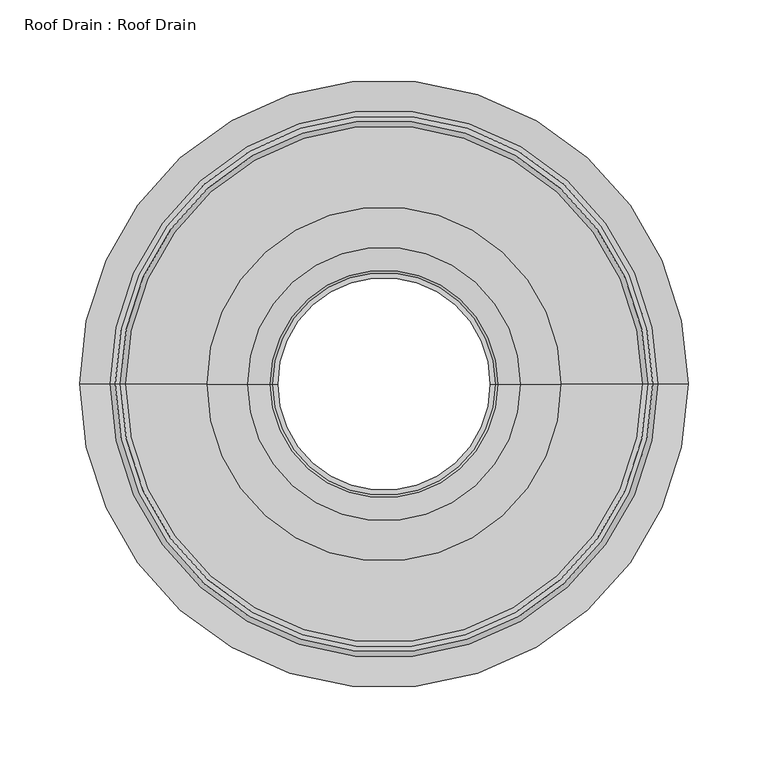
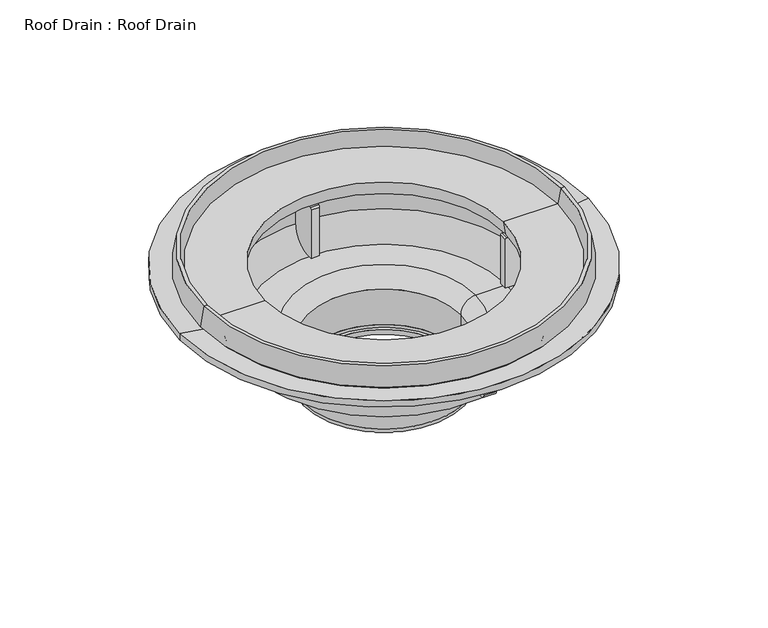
"""IFC4 building model written with IfcOpenShell, lengths in millimetres: proxy geometry, Roof Drain : Roof Drain."""

from ifc_helpers import new_model, si_unit, point, frame, origin, origin_with_axes, place, context, project, spatial, polyline, circle_curve, ellipse_curve, trimmed, source, transform, mapped, element, save
from ifc_brep_helpers import plane_surface, cylinder_surface, revolved_surface, advanced_brep


def roof_drain_roof_drain_b52993f2(model_context):
    return source(origin(), model_context, "Body", "AdvancedBrep", [
        advanced_brep(
        [(5.9835187, 171.3455573, -22.225), (5.9835187, 171.3455573, -8.8015902), (4.8754597, 139.6148985, -12.7), (4.8754597, 139.6148985, -25.4), (5.8727128, 168.1724914, -25.4), (-5.9835187, 171.3455573, -22.225), (-5.8727128, 168.1724914, -25.4), (-4.8754597, 139.6148985, -25.4), (-4.8754597, 139.6148985, -12.7), (-5.9835187, 171.3455573, -8.8015902)],
        [
            (0, 1),
            (1, 2),
            (2, 3),
            (3, 4),
            (4, 0, circle_curve(frame((5.8727128, 168.1724914, -22.225), z_axis=(0.9993908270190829, -0.034899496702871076, 0.0), x_axis=(0.034899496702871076, 0.9993908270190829, 0.0)), 3.175)),
            (5, 6, circle_curve(frame((-5.8727128, 168.1724914, -22.225), z_axis=(-0.9993908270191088, -0.0348994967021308, 0.0), x_axis=(-0.0348994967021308, 0.9993908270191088, 0.0)), 3.175)),
            (6, 7),
            (7, 8),
            (8, 9),
            (9, 5),
            (9, 1, circle_curve(frame((0.0, 0.0, -8.8015902), z_axis=(0.0, 0.0, -1.0), x_axis=(0.034899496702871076, 0.9993908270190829, 0.0)), 171.45)),
            (0, 5, circle_curve(frame((0.0, 0.0, -22.225), z_axis=(0.0, 0.0, 1.0), x_axis=(0.034899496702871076, 0.9993908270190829, 0.0)), 171.45)),
            (8, 2, circle_curve(frame((0.0, 0.0, -12.7), z_axis=(0.0, 0.0, -1.0), x_axis=(0.034899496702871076, 0.9993908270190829, 0.0)), 139.7)),
            (7, 3, circle_curve(frame((0.0, 0.0, -25.4), z_axis=(0.0, 0.0, -1.0), x_axis=(0.034899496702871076, 0.9993908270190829, 0.0)), 139.7)),
            (6, 4, circle_curve(frame((0.0, 0.0, -25.4), z_axis=(0.0, 0.0, -1.0), x_axis=(0.034899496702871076, 0.9993908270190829, 0.0)), 168.275)),
        ],
        [
            plane_surface(frame((0.0, 0.0, 168.275), z_axis=(0.9993908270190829, -0.034899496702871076, 0.0), x_axis=(0.034899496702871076, 0.9993908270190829, 0.0))),
            plane_surface(frame((0.0, 0.0, 168.275), z_axis=(-0.9993908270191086, -0.03489949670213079, 0.0), x_axis=(-0.03489949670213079, 0.9993908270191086, 0.0))),
            cylinder_surface(frame((0.0, 0.0, 168.275), z_axis=(0.0, 0.0, 1.0), x_axis=(0.034899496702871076, 0.9993908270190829, 0.0)), 171.45),
            revolved_surface(polyline([(5.9835187, 171.3455573, -8.8015902), (4.8754597, 139.6148985, -12.7)]), (0.0, 0.0, 168.275), (0.0, 0.0, 1.0)),
            revolved_surface(polyline([(4.875459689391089, 139.61489853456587, -12.699999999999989), (4.875459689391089, 139.61489853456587, -25.400000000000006)]), (0.0, 0.0, 168.275), (0.0, 0.0, 1.0)),
            plane_surface(frame((0.0, 0.0, -25.4), z_axis=(0.0, 0.0, -1.0000000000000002), x_axis=(0.034899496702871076, 0.9993908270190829, 0.0))),
            revolved_surface(trimmed(ellipse_curve(frame((5.8727128, 168.1724914, -22.225), z_axis=(0.9993908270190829, -0.034899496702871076, 0.0), x_axis=(0.034899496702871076, 0.9993908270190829, 0.0)), 3.175, 3.175), [point((5.8727128, 168.1724914, -25.4))], [point((5.9835187, 171.3455573, -22.225))], True, "CARTESIAN"), (0.0, 0.0, 168.275), (0.0, 0.0, 1.0)),
        ],
        [
            (0, [[1, 2, 3, 4, 5]]),
            (1, [[6, 7, 8, 9, 10]]),
            (2, [[11, -1, 12, -10]]),
            (3, [[13, -2, -11, -9]]),
            (4, [[14, -3, -13, -8]]),
            (5, [[15, -4, -14, -7]]),
            (6, [[-12, -5, -15, -6]]),
        ],
    ),
        advanced_brep(
        [(3.8782066, 111.0573057, -11.1125), (3.8782066, 111.0573057, -58.7375), (3.9890125, 114.2303715, -58.7375), (4.7092508, 134.8552997, -38.1), (4.7092508, 134.8552997, -9.525), (3.9336095, 112.6438386, -9.525), (-3.8782066, 111.0573057, -11.1125), (-3.9336095, 112.6438386, -9.525), (-4.7092508, 134.8552997, -9.525), (-4.7092508, 134.8552997, -38.1), (-3.9890125, 114.2303715, -58.7375), (-3.8782066, 111.0573057, -58.7375)],
        [
            (0, 1),
            (1, 2),
            (2, 3, circle_curve(frame((3.9890125, 114.2303715, -38.1), z_axis=(0.9993908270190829, -0.034899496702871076, 0.0), x_axis=(0.034899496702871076, 0.9993908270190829, 0.0)), 20.6375)),
            (3, 4),
            (4, 5),
            (5, 0, circle_curve(frame((3.9336095, 112.6438386, -11.1125), z_axis=(0.9993908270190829, -0.034899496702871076, 0.0), x_axis=(0.034899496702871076, 0.9993908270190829, 0.0)), 1.5875)),
            (6, 7, circle_curve(frame((-3.9336095, 112.6438386, -11.1125), z_axis=(-0.9993908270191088, -0.0348994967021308, 0.0), x_axis=(-0.0348994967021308, 0.9993908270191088, 0.0)), 1.5875)),
            (7, 8),
            (8, 9),
            (9, 10, circle_curve(frame((-3.9890125, 114.2303715, -38.1), z_axis=(-0.9993908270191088, -0.0348994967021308, 0.0), x_axis=(-0.0348994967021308, 0.9993908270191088, 0.0)), 20.6375)),
            (10, 11),
            (11, 6),
            (11, 1, circle_curve(frame((0.0, 0.0, -58.7375), z_axis=(0.0, 0.0, -1.0), x_axis=(0.034899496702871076, 0.9993908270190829, 0.0)), 111.125)),
            (0, 6, circle_curve(frame((0.0, 0.0, -11.1125), z_axis=(0.0, 0.0, 1.0), x_axis=(0.034899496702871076, 0.9993908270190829, 0.0)), 111.125)),
            (10, 2, circle_curve(frame((0.0, 0.0, -58.7375), z_axis=(0.0, 0.0, -1.0), x_axis=(0.034899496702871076, 0.9993908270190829, 0.0)), 114.3)),
            (9, 3, circle_curve(frame((0.0, 0.0, -38.1), z_axis=(0.0, 0.0, -1.0), x_axis=(0.034899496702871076, 0.9993908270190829, 0.0)), 134.9375)),
            (8, 4, circle_curve(frame((0.0, 0.0, -9.525), z_axis=(0.0, 0.0, -1.0), x_axis=(0.034899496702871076, 0.9993908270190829, 0.0)), 134.9375)),
            (7, 5, circle_curve(frame((0.0, 0.0, -9.525), z_axis=(0.0, 0.0, -1.0), x_axis=(0.034899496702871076, 0.9993908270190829, 0.0)), 112.7125)),
        ],
        [
            plane_surface(frame((0.0, 0.0, 168.275), z_axis=(0.9993908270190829, -0.034899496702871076, 0.0), x_axis=(0.034899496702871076, 0.9993908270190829, 0.0))),
            plane_surface(frame((0.0, 0.0, 168.275), z_axis=(-0.9993908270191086, -0.03489949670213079, 0.0), x_axis=(-0.03489949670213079, 0.9993908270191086, 0.0))),
            revolved_surface(polyline([(3.8782065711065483, 111.05730565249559, -11.112500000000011), (3.8782065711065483, 111.05730565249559, -58.73749999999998)]), (0.0, 0.0, 168.275), (0.0, 0.0, 1.0)),
            plane_surface(frame((0.0, 0.0, -58.7375), z_axis=(0.0, 0.0, -1.0000000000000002), x_axis=(0.034899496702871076, 0.9993908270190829, 0.0))),
            revolved_surface(trimmed(ellipse_curve(frame((3.9890125, 114.2303715, -38.1), z_axis=(0.9993908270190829, -0.034899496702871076, 0.0), x_axis=(0.034899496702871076, 0.9993908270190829, 0.0)), 20.6375, 20.6375), [point((3.9890125, 114.2303715, -58.7375))], [point((4.7092508, 134.8552997, -38.1))], True, "CARTESIAN"), (0.0, 0.0, 168.275), (0.0, 0.0, 1.0)),
            cylinder_surface(frame((0.0, 0.0, 168.275), z_axis=(0.0, 0.0, 1.0), x_axis=(0.034899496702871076, 0.9993908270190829, 0.0)), 134.9375),
            plane_surface(frame((0.0, 0.0, -9.525), z_axis=(0.0, 0.0, 1.0000000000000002), x_axis=(0.034899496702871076, 0.9993908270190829, 0.0))),
            revolved_surface(trimmed(ellipse_curve(frame((3.9336095, 112.6438386, -11.1125), z_axis=(0.9993908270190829, -0.034899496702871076, 0.0), x_axis=(0.034899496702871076, 0.9993908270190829, 0.0)), 1.5875, 1.5875), [point((3.9336095, 112.6438386, -9.525))], [point((3.8782066, 111.0573057, -11.1125))], True, "CARTESIAN"), (0.0, 0.0, 168.275), (0.0, 0.0, 1.0)),
        ],
        [
            (0, [[1, 2, 3, 4, 5, 6]]),
            (1, [[7, 8, 9, 10, 11, 12]]),
            (2, [[13, -1, 14, -12]]),
            (3, [[15, -2, -13, -11]]),
            (4, [[16, -3, -15, -10]]),
            (5, [[17, -4, -16, -9]]),
            (6, [[18, -5, -17, -8]]),
            (7, [[-14, -6, -18, -7]]),
        ],
    ),
        advanced_brep(
        [(-5.9835187, -171.3455573, -22.225), (-5.9835187, -171.3455573, -8.8015902), (-4.8754597, -139.6148985, -12.7), (-4.8754597, -139.6148985, -25.4), (-5.8727128, -168.1724914, -25.4), (5.9835187, -171.3455573, -22.225), (5.8727128, -168.1724914, -25.4), (4.8754597, -139.6148985, -25.4), (4.8754597, -139.6148985, -12.7), (5.9835187, -171.3455573, -8.8015902)],
        [
            (0, 1),
            (1, 2),
            (2, 3),
            (3, 4),
            (4, 0, circle_curve(frame((-5.8727128, -168.1724914, -22.225), z_axis=(-0.9993908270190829, 0.034899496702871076, 0.0), x_axis=(-0.034899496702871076, -0.9993908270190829, 0.0)), 3.175)),
            (5, 6, circle_curve(frame((5.8727128, -168.1724914, -22.225), z_axis=(0.9993908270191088, 0.0348994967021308, 0.0), x_axis=(0.0348994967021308, -0.9993908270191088, 0.0)), 3.175)),
            (6, 7),
            (7, 8),
            (8, 9),
            (9, 5),
            (9, 1, circle_curve(frame((0.0, 0.0, -8.8015902), z_axis=(0.0, 0.0, -1.0), x_axis=(-0.034899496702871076, -0.9993908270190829, 0.0)), 171.45)),
            (0, 5, circle_curve(frame((0.0, 0.0, -22.225), z_axis=(0.0, 0.0, 1.0), x_axis=(-0.034899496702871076, -0.9993908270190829, 0.0)), 171.45)),
            (8, 2, circle_curve(frame((0.0, 0.0, -12.7), z_axis=(0.0, 0.0, -1.0), x_axis=(-0.034899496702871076, -0.9993908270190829, 0.0)), 139.7)),
            (7, 3, circle_curve(frame((0.0, 0.0, -25.4), z_axis=(0.0, 0.0, -1.0), x_axis=(-0.034899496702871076, -0.9993908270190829, 0.0)), 139.7)),
            (6, 4, circle_curve(frame((0.0, 0.0, -25.4), z_axis=(0.0, 0.0, -1.0), x_axis=(-0.034899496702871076, -0.9993908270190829, 0.0)), 168.275)),
        ],
        [
            plane_surface(frame((0.0, 0.0, 168.275), z_axis=(-0.9993908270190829, 0.034899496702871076, 0.0), x_axis=(-0.034899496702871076, -0.9993908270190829, 0.0))),
            plane_surface(frame((0.0, 0.0, 168.275), z_axis=(0.9993908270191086, 0.03489949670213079, 0.0), x_axis=(0.03489949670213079, -0.9993908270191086, 0.0))),
            cylinder_surface(frame((0.0, 0.0, 168.275), z_axis=(0.0, 0.0, 1.0), x_axis=(-0.034899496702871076, -0.9993908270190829, 0.0)), 171.45),
            revolved_surface(polyline([(-5.9835187, -171.3455573, -8.8015902), (-4.8754597, -139.6148985, -12.7)]), (0.0, 0.0, 168.275), (0.0, 0.0, 1.0)),
            revolved_surface(polyline([(-4.875459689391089, -139.61489853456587, -12.699999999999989), (-4.875459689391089, -139.61489853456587, -25.400000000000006)]), (0.0, 0.0, 168.275), (0.0, 0.0, 1.0)),
            plane_surface(frame((0.0, 0.0, -25.4), z_axis=(0.0, 0.0, -1.0000000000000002), x_axis=(-0.034899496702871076, -0.9993908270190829, 0.0))),
            revolved_surface(trimmed(ellipse_curve(frame((-5.8727128, -168.1724914, -22.225), z_axis=(-0.9993908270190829, 0.034899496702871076, 0.0), x_axis=(-0.034899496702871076, -0.9993908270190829, 0.0)), 3.175, 3.175), [point((-5.8727128, -168.1724914, -25.4))], [point((-5.9835187, -171.3455573, -22.225))], True, "CARTESIAN"), (0.0, 0.0, 168.275), (0.0, 0.0, 1.0)),
        ],
        [
            (0, [[1, 2, 3, 4, 5]]),
            (1, [[6, 7, 8, 9, 10]]),
            (2, [[11, -1, 12, -10]]),
            (3, [[13, -2, -11, -9]]),
            (4, [[14, -3, -13, -8]]),
            (5, [[15, -4, -14, -7]]),
            (6, [[-12, -5, -15, -6]]),
        ],
    ),
        advanced_brep(
        [(-3.8782066, -111.0573057, -11.1125), (-3.8782066, -111.0573057, -58.7375), (-3.9890125, -114.2303715, -58.7375), (-4.7092508, -134.8552997, -38.1), (-4.7092508, -134.8552997, -9.525), (-3.9336095, -112.6438386, -9.525), (3.8782066, -111.0573057, -11.1125), (3.9336095, -112.6438386, -9.525), (4.7092508, -134.8552997, -9.525), (4.7092508, -134.8552997, -38.1), (3.9890125, -114.2303715, -58.7375), (3.8782066, -111.0573057, -58.7375)],
        [
            (0, 1),
            (1, 2),
            (2, 3, circle_curve(frame((-3.9890125, -114.2303715, -38.1), z_axis=(-0.9993908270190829, 0.034899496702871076, 0.0), x_axis=(-0.034899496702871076, -0.9993908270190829, 0.0)), 20.6375)),
            (3, 4),
            (4, 5),
            (5, 0, circle_curve(frame((-3.9336095, -112.6438386, -11.1125), z_axis=(-0.9993908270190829, 0.034899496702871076, 0.0), x_axis=(-0.034899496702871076, -0.9993908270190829, 0.0)), 1.5875)),
            (6, 7, circle_curve(frame((3.9336095, -112.6438386, -11.1125), z_axis=(0.9993908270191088, 0.0348994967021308, 0.0), x_axis=(0.0348994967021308, -0.9993908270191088, 0.0)), 1.5875)),
            (7, 8),
            (8, 9),
            (9, 10, circle_curve(frame((3.9890125, -114.2303715, -38.1), z_axis=(0.9993908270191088, 0.0348994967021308, 0.0), x_axis=(0.0348994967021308, -0.9993908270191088, 0.0)), 20.6375)),
            (10, 11),
            (11, 6),
            (11, 1, circle_curve(frame((0.0, 0.0, -58.7375), z_axis=(0.0, 0.0, -1.0), x_axis=(-0.034899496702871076, -0.9993908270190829, 0.0)), 111.125)),
            (0, 6, circle_curve(frame((0.0, 0.0, -11.1125), z_axis=(0.0, 0.0, 1.0), x_axis=(-0.034899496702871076, -0.9993908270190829, 0.0)), 111.125)),
            (10, 2, circle_curve(frame((0.0, 0.0, -58.7375), z_axis=(0.0, 0.0, -1.0), x_axis=(-0.034899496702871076, -0.9993908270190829, 0.0)), 114.3)),
            (9, 3, circle_curve(frame((0.0, 0.0, -38.1), z_axis=(0.0, 0.0, -1.0), x_axis=(-0.034899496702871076, -0.9993908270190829, 0.0)), 134.9375)),
            (8, 4, circle_curve(frame((0.0, 0.0, -9.525), z_axis=(0.0, 0.0, -1.0), x_axis=(-0.034899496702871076, -0.9993908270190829, 0.0)), 134.9375)),
            (7, 5, circle_curve(frame((0.0, 0.0, -9.525), z_axis=(0.0, 0.0, -1.0), x_axis=(-0.034899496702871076, -0.9993908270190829, 0.0)), 112.7125)),
        ],
        [
            plane_surface(frame((0.0, 0.0, 168.275), z_axis=(-0.9993908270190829, 0.034899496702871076, 0.0), x_axis=(-0.034899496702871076, -0.9993908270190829, 0.0))),
            plane_surface(frame((0.0, 0.0, 168.275), z_axis=(0.9993908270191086, 0.03489949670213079, 0.0), x_axis=(0.03489949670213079, -0.9993908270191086, 0.0))),
            revolved_surface(polyline([(-3.8782065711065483, -111.05730565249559, -11.112500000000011), (-3.8782065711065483, -111.05730565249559, -58.73749999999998)]), (0.0, 0.0, 168.275), (0.0, 0.0, 1.0)),
            plane_surface(frame((0.0, 0.0, -58.7375), z_axis=(0.0, 0.0, -1.0000000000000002), x_axis=(-0.034899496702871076, -0.9993908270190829, 0.0))),
            revolved_surface(trimmed(ellipse_curve(frame((-3.9890125, -114.2303715, -38.1), z_axis=(-0.9993908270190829, 0.034899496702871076, 0.0), x_axis=(-0.034899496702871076, -0.9993908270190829, 0.0)), 20.6375, 20.6375), [point((-3.9890125, -114.2303715, -58.7375))], [point((-4.7092508, -134.8552997, -38.1))], True, "CARTESIAN"), (0.0, 0.0, 168.275), (0.0, 0.0, 1.0)),
            cylinder_surface(frame((0.0, 0.0, 168.275), z_axis=(0.0, 0.0, 1.0), x_axis=(-0.034899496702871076, -0.9993908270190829, 0.0)), 134.9375),
            plane_surface(frame((0.0, 0.0, -9.525), z_axis=(0.0, 0.0, 1.0000000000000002), x_axis=(-0.034899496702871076, -0.9993908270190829, 0.0))),
            revolved_surface(trimmed(ellipse_curve(frame((-3.9336095, -112.6438386, -11.1125), z_axis=(-0.9993908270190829, 0.034899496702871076, 0.0), x_axis=(-0.034899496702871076, -0.9993908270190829, 0.0)), 1.5875, 1.5875), [point((-3.9336095, -112.6438386, -9.525))], [point((-3.8782066, -111.0573057, -11.1125))], True, "CARTESIAN"), (0.0, 0.0, 168.275), (0.0, 0.0, 1.0)),
        ],
        [
            (0, [[1, 2, 3, 4, 5, 6]]),
            (1, [[7, 8, 9, 10, 11, 12]]),
            (2, [[13, -1, 14, -12]]),
            (3, [[15, -2, -13, -11]]),
            (4, [[16, -3, -15, -10]]),
            (5, [[17, -4, -16, -9]]),
            (6, [[18, -5, -17, -8]]),
            (7, [[-14, -6, -18, -7]]),
        ],
    ),
        advanced_brep(
        [(-171.3455573, 5.9835187, -22.225), (-171.3455573, 5.9835187, -8.8015902), (-139.6148985, 4.8754597, -12.7), (-139.6148985, 4.8754597, -25.4), (-168.1724914, 5.8727128, -25.4), (-171.3455573, -5.9835187, -22.225), (-168.1724914, -5.8727128, -25.4), (-139.6148985, -4.8754597, -25.4), (-139.6148985, -4.8754597, -12.7), (-171.3455573, -5.9835187, -8.8015902)],
        [
            (0, 1),
            (1, 2),
            (2, 3),
            (3, 4),
            (4, 0, circle_curve(frame((-168.1724914, 5.8727128, -22.225), z_axis=(0.034899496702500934, 0.9993908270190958, 0.0), x_axis=(-0.9993908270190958, 0.034899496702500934, 0.0)), 3.175)),
            (5, 6, circle_curve(frame((-168.1724914, -5.8727128, -22.225), z_axis=(0.03489949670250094, -0.9993908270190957, 0.0), x_axis=(-0.9993908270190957, -0.03489949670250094, 0.0)), 3.175)),
            (6, 7),
            (7, 8),
            (8, 9),
            (9, 5),
            (9, 1, circle_curve(frame((0.0, 0.0, -8.8015902), z_axis=(0.0, 0.0, -1.0), x_axis=(-0.9993908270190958, 0.034899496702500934, 0.0)), 171.45)),
            (0, 5, circle_curve(frame((0.0, 0.0, -22.225), z_axis=(0.0, 0.0, 1.0), x_axis=(-0.9993908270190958, 0.034899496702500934, 0.0)), 171.45)),
            (8, 2, circle_curve(frame((0.0, 0.0, -12.7), z_axis=(0.0, 0.0, -1.0), x_axis=(-0.9993908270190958, 0.034899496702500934, 0.0)), 139.7)),
            (7, 3, circle_curve(frame((0.0, 0.0, -25.4), z_axis=(0.0, 0.0, -1.0), x_axis=(-0.9993908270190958, 0.034899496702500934, 0.0)), 139.7)),
            (6, 4, circle_curve(frame((0.0, 0.0, -25.4), z_axis=(0.0, 0.0, -1.0), x_axis=(-0.9993908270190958, 0.034899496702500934, 0.0)), 168.275)),
        ],
        [
            plane_surface(frame((0.0, 0.0, 168.275), z_axis=(0.034899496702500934, 0.9993908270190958, 0.0), x_axis=(-0.9993908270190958, 0.034899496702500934, 0.0))),
            plane_surface(frame((0.0, 0.0, 168.275), z_axis=(0.03489949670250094, -0.9993908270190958, 0.0), x_axis=(-0.9993908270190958, -0.03489949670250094, 0.0))),
            cylinder_surface(frame((0.0, 0.0, 168.275), z_axis=(0.0, 0.0, 1.0), x_axis=(-0.9993908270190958, 0.034899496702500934, 0.0)), 171.45),
            revolved_surface(polyline([(-171.3455573, 5.9835187, -8.8015902), (-139.6148985, 4.8754597, -12.7)]), (0.0, 0.0, 168.275), (0.0, 0.0, 1.0)),
            revolved_surface(polyline([(-139.61489853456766, 4.8754596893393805, -12.699999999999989), (-139.61489853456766, 4.8754596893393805, -25.400000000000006)]), (0.0, 0.0, 168.275), (0.0, 0.0, 1.0)),
            plane_surface(frame((0.0, 0.0, -25.4), z_axis=(0.0, 0.0, -1.0), x_axis=(-0.9993908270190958, 0.034899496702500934, 0.0))),
            revolved_surface(trimmed(ellipse_curve(frame((-168.1724914, 5.8727128, -22.225), z_axis=(0.034899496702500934, 0.9993908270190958, 0.0), x_axis=(-0.9993908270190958, 0.034899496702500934, 0.0)), 3.175, 3.175), [point((-168.1724914, 5.8727128, -25.4))], [point((-171.3455573, 5.9835187, -22.225))], True, "CARTESIAN"), (0.0, 0.0, 168.275), (0.0, 0.0, 1.0)),
        ],
        [
            (0, [[1, 2, 3, 4, 5]]),
            (1, [[6, 7, 8, 9, 10]]),
            (2, [[11, -1, 12, -10]]),
            (3, [[13, -2, -11, -9]]),
            (4, [[14, -3, -13, -8]]),
            (5, [[15, -4, -14, -7]]),
            (6, [[-12, -5, -15, -6]]),
        ],
    ),
        advanced_brep(
        [(-111.0573057, 3.8782066, -11.1125), (-111.0573057, 3.8782066, -58.7375), (-114.2303715, 3.9890125, -58.7375), (-134.8552997, 4.7092508, -38.1), (-134.8552997, 4.7092508, -9.525), (-112.6438386, 3.9336095, -9.525), (-111.0573057, -3.8782066, -11.1125), (-112.6438386, -3.9336095, -9.525), (-134.8552997, -4.7092508, -9.525), (-134.8552997, -4.7092508, -38.1), (-114.2303715, -3.9890125, -58.7375), (-111.0573057, -3.8782066, -58.7375)],
        [
            (0, 1),
            (1, 2),
            (2, 3, circle_curve(frame((-114.2303715, 3.9890125, -38.1), z_axis=(0.034899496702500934, 0.9993908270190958, 0.0), x_axis=(-0.9993908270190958, 0.034899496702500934, 0.0)), 20.6375)),
            (3, 4),
            (4, 5),
            (5, 0, circle_curve(frame((-112.6438386, 3.9336095, -11.1125), z_axis=(0.034899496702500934, 0.9993908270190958, 0.0), x_axis=(-0.9993908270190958, 0.034899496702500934, 0.0)), 1.5875)),
            (6, 7, circle_curve(frame((-112.6438386, -3.9336095, -11.1125), z_axis=(0.03489949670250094, -0.9993908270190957, 0.0), x_axis=(-0.9993908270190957, -0.03489949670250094, 0.0)), 1.5875)),
            (7, 8),
            (8, 9),
            (9, 10, circle_curve(frame((-114.2303715, -3.9890125, -38.1), z_axis=(0.03489949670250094, -0.9993908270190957, 0.0), x_axis=(-0.9993908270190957, -0.03489949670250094, 0.0)), 20.6375)),
            (10, 11),
            (11, 6),
            (11, 1, circle_curve(frame((0.0, 0.0, -58.7375), z_axis=(0.0, 0.0, -1.0), x_axis=(-0.9993908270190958, 0.034899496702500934, 0.0)), 111.125)),
            (0, 6, circle_curve(frame((0.0, 0.0, -11.1125), z_axis=(0.0, 0.0, 1.0), x_axis=(-0.9993908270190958, 0.034899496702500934, 0.0)), 111.125)),
            (10, 2, circle_curve(frame((0.0, 0.0, -58.7375), z_axis=(0.0, 0.0, -1.0), x_axis=(-0.9993908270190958, 0.034899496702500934, 0.0)), 114.3)),
            (9, 3, circle_curve(frame((0.0, 0.0, -38.1), z_axis=(0.0, 0.0, -1.0), x_axis=(-0.9993908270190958, 0.034899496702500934, 0.0)), 134.9375)),
            (8, 4, circle_curve(frame((0.0, 0.0, -9.525), z_axis=(0.0, 0.0, -1.0), x_axis=(-0.9993908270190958, 0.034899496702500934, 0.0)), 134.9375)),
            (7, 5, circle_curve(frame((0.0, 0.0, -9.525), z_axis=(0.0, 0.0, -1.0), x_axis=(-0.9993908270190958, 0.034899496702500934, 0.0)), 112.7125)),
        ],
        [
            plane_surface(frame((0.0, 0.0, 168.275), z_axis=(0.034899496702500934, 0.9993908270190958, 0.0), x_axis=(-0.9993908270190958, 0.034899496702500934, 0.0))),
            plane_surface(frame((0.0, 0.0, 168.275), z_axis=(0.03489949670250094, -0.9993908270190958, 0.0), x_axis=(-0.9993908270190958, -0.03489949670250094, 0.0))),
            revolved_surface(polyline([(-111.05730565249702, 3.8782065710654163, -11.112500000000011), (-111.05730565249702, 3.8782065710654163, -58.73749999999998)]), (0.0, 0.0, 168.275), (0.0, 0.0, 1.0)),
            plane_surface(frame((0.0, 0.0, -58.7375), z_axis=(0.0, 0.0, -1.0), x_axis=(-0.9993908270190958, 0.034899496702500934, 0.0))),
            revolved_surface(trimmed(ellipse_curve(frame((-114.2303715, 3.9890125, -38.1), z_axis=(0.034899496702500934, 0.9993908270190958, 0.0), x_axis=(-0.9993908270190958, 0.034899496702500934, 0.0)), 20.6375, 20.6375), [point((-114.2303715, 3.9890125, -58.7375))], [point((-134.8552997, 4.7092508, -38.1))], True, "CARTESIAN"), (0.0, 0.0, 168.275), (0.0, 0.0, 1.0)),
            cylinder_surface(frame((0.0, 0.0, 168.275), z_axis=(0.0, 0.0, 1.0), x_axis=(-0.9993908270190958, 0.034899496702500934, 0.0)), 134.9375),
            plane_surface(frame((0.0, 0.0, -9.525), z_axis=(0.0, 0.0, 1.0), x_axis=(-0.9993908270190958, 0.034899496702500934, 0.0))),
            revolved_surface(trimmed(ellipse_curve(frame((-112.6438386, 3.9336095, -11.1125), z_axis=(0.034899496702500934, 0.9993908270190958, 0.0), x_axis=(-0.9993908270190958, 0.034899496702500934, 0.0)), 1.5875, 1.5875), [point((-112.6438386, 3.9336095, -9.525))], [point((-111.0573057, 3.8782066, -11.1125))], True, "CARTESIAN"), (0.0, 0.0, 168.275), (0.0, 0.0, 1.0)),
        ],
        [
            (0, [[1, 2, 3, 4, 5, 6]]),
            (1, [[7, 8, 9, 10, 11, 12]]),
            (2, [[13, -1, 14, -12]]),
            (3, [[15, -2, -13, -11]]),
            (4, [[16, -3, -15, -10]]),
            (5, [[17, -4, -16, -9]]),
            (6, [[18, -5, -17, -8]]),
            (7, [[-14, -6, -18, -7]]),
        ],
    ),
        advanced_brep(
        [(171.3455573, -5.9835187, -22.225), (171.3455573, -5.9835187, -8.8015902), (139.6148985, -4.8754597, -12.7), (139.6148985, -4.8754597, -25.4), (168.1724914, -5.8727128, -25.4), (171.3455573, 5.9835187, -22.225), (168.1724914, 5.8727128, -25.4), (139.6148985, 4.8754597, -25.4), (139.6148985, 4.8754597, -12.7), (171.3455573, 5.9835187, -8.8015902)],
        [
            (0, 1),
            (1, 2),
            (2, 3),
            (3, 4),
            (4, 0, circle_curve(frame((168.1724914, -5.8727128, -22.225), z_axis=(-0.034899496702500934, -0.9993908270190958, 0.0), x_axis=(0.9993908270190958, -0.034899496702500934, 0.0)), 3.175)),
            (5, 6, circle_curve(frame((168.1724914, 5.8727128, -22.225), z_axis=(-0.03489949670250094, 0.9993908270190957, 0.0), x_axis=(0.9993908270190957, 0.03489949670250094, 0.0)), 3.175)),
            (6, 7),
            (7, 8),
            (8, 9),
            (9, 5),
            (9, 1, circle_curve(frame((0.0, 0.0, -8.8015902), z_axis=(0.0, 0.0, -1.0), x_axis=(0.9993908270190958, -0.034899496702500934, 0.0)), 171.45)),
            (0, 5, circle_curve(frame((0.0, 0.0, -22.225), z_axis=(0.0, 0.0, 1.0), x_axis=(0.9993908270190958, -0.034899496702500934, 0.0)), 171.45)),
            (8, 2, circle_curve(frame((0.0, 0.0, -12.7), z_axis=(0.0, 0.0, -1.0), x_axis=(0.9993908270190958, -0.034899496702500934, 0.0)), 139.7)),
            (7, 3, circle_curve(frame((0.0, 0.0, -25.4), z_axis=(0.0, 0.0, -1.0), x_axis=(0.9993908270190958, -0.034899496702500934, 0.0)), 139.7)),
            (6, 4, circle_curve(frame((0.0, 0.0, -25.4), z_axis=(0.0, 0.0, -1.0), x_axis=(0.9993908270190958, -0.034899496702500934, 0.0)), 168.275)),
        ],
        [
            plane_surface(frame((0.0, 0.0, 168.275), z_axis=(-0.034899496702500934, -0.9993908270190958, 0.0), x_axis=(0.9993908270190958, -0.034899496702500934, 0.0))),
            plane_surface(frame((0.0, 0.0, 168.275), z_axis=(-0.03489949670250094, 0.9993908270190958, 0.0), x_axis=(0.9993908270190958, 0.03489949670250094, 0.0))),
            cylinder_surface(frame((0.0, 0.0, 168.275), z_axis=(0.0, 0.0, 1.0), x_axis=(0.9993908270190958, -0.034899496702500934, 0.0)), 171.45),
            revolved_surface(polyline([(171.3455573, -5.9835187, -8.8015902), (139.6148985, -4.8754597, -12.7)]), (0.0, 0.0, 168.275), (0.0, 0.0, 1.0)),
            revolved_surface(polyline([(139.61489853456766, -4.8754596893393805, -12.699999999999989), (139.61489853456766, -4.8754596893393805, -25.400000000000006)]), (0.0, 0.0, 168.275), (0.0, 0.0, 1.0)),
            plane_surface(frame((0.0, 0.0, -25.4), z_axis=(0.0, 0.0, -1.0), x_axis=(0.9993908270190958, -0.034899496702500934, 0.0))),
            revolved_surface(trimmed(ellipse_curve(frame((168.1724914, -5.8727128, -22.225), z_axis=(-0.034899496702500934, -0.9993908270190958, 0.0), x_axis=(0.9993908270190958, -0.034899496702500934, 0.0)), 3.175, 3.175), [point((168.1724914, -5.8727128, -25.4))], [point((171.3455573, -5.9835187, -22.225))], True, "CARTESIAN"), (0.0, 0.0, 168.275), (0.0, 0.0, 1.0)),
        ],
        [
            (0, [[1, 2, 3, 4, 5]]),
            (1, [[6, 7, 8, 9, 10]]),
            (2, [[11, -1, 12, -10]]),
            (3, [[13, -2, -11, -9]]),
            (4, [[14, -3, -13, -8]]),
            (5, [[15, -4, -14, -7]]),
            (6, [[-12, -5, -15, -6]]),
        ],
    ),
        advanced_brep(
        [(111.0573057, -3.8782066, -11.1125), (111.0573057, -3.8782066, -58.7375), (114.2303715, -3.9890125, -58.7375), (134.8552997, -4.7092508, -38.1), (134.8552997, -4.7092508, -9.525), (112.6438386, -3.9336095, -9.525), (111.0573057, 3.8782066, -11.1125), (112.6438386, 3.9336095, -9.525), (134.8552997, 4.7092508, -9.525), (134.8552997, 4.7092508, -38.1), (114.2303715, 3.9890125, -58.7375), (111.0573057, 3.8782066, -58.7375)],
        [
            (0, 1),
            (1, 2),
            (2, 3, circle_curve(frame((114.2303715, -3.9890125, -38.1), z_axis=(-0.034899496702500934, -0.9993908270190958, 0.0), x_axis=(0.9993908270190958, -0.034899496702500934, 0.0)), 20.6375)),
            (3, 4),
            (4, 5),
            (5, 0, circle_curve(frame((112.6438386, -3.9336095, -11.1125), z_axis=(-0.034899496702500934, -0.9993908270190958, 0.0), x_axis=(0.9993908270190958, -0.034899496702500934, 0.0)), 1.5875)),
            (6, 7, circle_curve(frame((112.6438386, 3.9336095, -11.1125), z_axis=(-0.03489949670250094, 0.9993908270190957, 0.0), x_axis=(0.9993908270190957, 0.03489949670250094, 0.0)), 1.5875)),
            (7, 8),
            (8, 9),
            (9, 10, circle_curve(frame((114.2303715, 3.9890125, -38.1), z_axis=(-0.03489949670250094, 0.9993908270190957, 0.0), x_axis=(0.9993908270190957, 0.03489949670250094, 0.0)), 20.6375)),
            (10, 11),
            (11, 6),
            (11, 1, circle_curve(frame((0.0, 0.0, -58.7375), z_axis=(0.0, 0.0, -1.0), x_axis=(0.9993908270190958, -0.034899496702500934, 0.0)), 111.125)),
            (0, 6, circle_curve(frame((0.0, 0.0, -11.1125), z_axis=(0.0, 0.0, 1.0), x_axis=(0.9993908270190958, -0.034899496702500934, 0.0)), 111.125)),
            (10, 2, circle_curve(frame((0.0, 0.0, -58.7375), z_axis=(0.0, 0.0, -1.0), x_axis=(0.9993908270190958, -0.034899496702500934, 0.0)), 114.3)),
            (9, 3, circle_curve(frame((0.0, 0.0, -38.1), z_axis=(0.0, 0.0, -1.0), x_axis=(0.9993908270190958, -0.034899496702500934, 0.0)), 134.9375)),
            (8, 4, circle_curve(frame((0.0, 0.0, -9.525), z_axis=(0.0, 0.0, -1.0), x_axis=(0.9993908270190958, -0.034899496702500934, 0.0)), 134.9375)),
            (7, 5, circle_curve(frame((0.0, 0.0, -9.525), z_axis=(0.0, 0.0, -1.0), x_axis=(0.9993908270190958, -0.034899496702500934, 0.0)), 112.7125)),
        ],
        [
            plane_surface(frame((0.0, 0.0, 168.275), z_axis=(-0.034899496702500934, -0.9993908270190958, 0.0), x_axis=(0.9993908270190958, -0.034899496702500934, 0.0))),
            plane_surface(frame((0.0, 0.0, 168.275), z_axis=(-0.03489949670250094, 0.9993908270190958, 0.0), x_axis=(0.9993908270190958, 0.03489949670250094, 0.0))),
            revolved_surface(polyline([(111.05730565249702, -3.8782065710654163, -11.112500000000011), (111.05730565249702, -3.8782065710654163, -58.73749999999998)]), (0.0, 0.0, 168.275), (0.0, 0.0, 1.0)),
            plane_surface(frame((0.0, 0.0, -58.7375), z_axis=(0.0, 0.0, -1.0), x_axis=(0.9993908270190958, -0.034899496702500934, 0.0))),
            revolved_surface(trimmed(ellipse_curve(frame((114.2303715, -3.9890125, -38.1), z_axis=(-0.034899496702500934, -0.9993908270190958, 0.0), x_axis=(0.9993908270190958, -0.034899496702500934, 0.0)), 20.6375, 20.6375), [point((114.2303715, -3.9890125, -58.7375))], [point((134.8552997, -4.7092508, -38.1))], True, "CARTESIAN"), (0.0, 0.0, 168.275), (0.0, 0.0, 1.0)),
            cylinder_surface(frame((0.0, 0.0, 168.275), z_axis=(0.0, 0.0, 1.0), x_axis=(0.9993908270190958, -0.034899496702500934, 0.0)), 134.9375),
            plane_surface(frame((0.0, 0.0, -9.525), z_axis=(0.0, 0.0, 1.0), x_axis=(0.9993908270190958, -0.034899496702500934, 0.0))),
            revolved_surface(trimmed(ellipse_curve(frame((112.6438386, -3.9336095, -11.1125), z_axis=(-0.034899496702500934, -0.9993908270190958, 0.0), x_axis=(0.9993908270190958, -0.034899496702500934, 0.0)), 1.5875, 1.5875), [point((112.6438386, -3.9336095, -9.525))], [point((111.0573057, -3.8782066, -11.1125))], True, "CARTESIAN"), (0.0, 0.0, 168.275), (0.0, 0.0, 1.0)),
        ],
        [
            (0, [[1, 2, 3, 4, 5, 6]]),
            (1, [[7, 8, 9, 10, 11, 12]]),
            (2, [[13, -1, 14, -12]]),
            (3, [[15, -2, -13, -11]]),
            (4, [[16, -3, -15, -10]]),
            (5, [[17, -4, -16, -9]]),
            (6, [[18, -5, -17, -8]]),
            (7, [[-14, -6, -18, -7]]),
        ],
    ),
        advanced_brep(
        [(-158.75, 0.0, -4.7625), (158.75, 0.0, -4.7625), (190.5, 0.0, 0.0), (-190.5, 0.0, 0.0), (-134.9375, 0.0, -4.7625), (134.9375, 0.0, -4.7625), (-134.9375, 0.0, -38.1), (134.9375, 0.0, -38.1), (-114.3, 0.0, -58.7375), (114.3, 0.0, -58.7375), (-85.725, 0.0, -58.7375), (85.725, 0.0, -58.7375), (-71.4375, 0.0, -73.025), (71.4375, 0.0, -73.025), (-71.4375, 0.0, -107.95), (71.4375, 0.0, -107.95), (-69.85, 0.0, -109.5375), (69.85, 0.0, -109.5375), (-66.675, 0.0, -109.5375), (66.675, 0.0, -109.5375), (-66.675, 0.0, -114.3), (66.675, 0.0, -114.3), (-69.85, 0.0, -114.3), (69.85, 0.0, -114.3), (-76.2, 0.0, -107.95), (76.2, 0.0, -107.95), (-76.2, 0.0, -73.025), (76.2, 0.0, -73.025), (-85.725, 0.0, -63.5), (85.725, 0.0, -63.5), (-114.3, 0.0, -63.5), (114.3, 0.0, -63.5), (-139.7, 0.0, -38.1), (139.7, 0.0, -38.1), (-139.7, 0.0, -12.7), (139.7, 0.0, -12.7), (-190.5, 0.0, -6.35), (190.5, 0.0, -6.35)],
        [
            (0, 1, circle_curve(frame((0.0, 0.0, -4.7625), z_axis=(0.0, 0.0, -1.0), x_axis=(1.0, 0.0, 0.0)), 158.75)),
            (1, 2),
            (2, 3, circle_curve(origin_with_axes(), 190.5)),
            (3, 0),
            (1, 0, circle_curve(frame((0.0, 0.0, -4.7625), z_axis=(0.0, 0.0, -1.0), x_axis=(1.0, 0.0, 0.0)), 158.75)),
            (3, 2, circle_curve(origin_with_axes(), 190.5)),
            (4, 5, circle_curve(frame((0.0, 0.0, -4.7625), z_axis=(0.0, 0.0, -1.0), x_axis=(1.0, 0.0, 0.0)), 134.9375)),
            (5, 1),
            (0, 4),
            (5, 4, circle_curve(frame((0.0, 0.0, -4.7625), z_axis=(0.0, 0.0, -1.0), x_axis=(1.0, 0.0, 0.0)), 134.9375)),
            (6, 7, circle_curve(frame((0.0, 0.0, -38.1), z_axis=(0.0, 0.0, -1.0), x_axis=(1.0, 0.0, 0.0)), 134.9375)),
            (7, 5),
            (4, 6),
            (7, 6, circle_curve(frame((0.0, 0.0, -38.1), z_axis=(0.0, 0.0, -1.0), x_axis=(1.0, 0.0, 0.0)), 134.9375)),
            (8, 9, circle_curve(frame((0.0, 0.0, -58.7375), z_axis=(0.0, 0.0, -1.0), x_axis=(1.0, 0.0, 0.0)), 114.3)),
            (9, 7, circle_curve(frame((114.3, 0.0, -38.1), z_axis=(0.0, -1.0, 0.0), x_axis=(1.0, 0.0, 0.0)), 20.6375)),
            (6, 8, circle_curve(frame((-114.3, 0.0, -38.1), z_axis=(0.0, -1.0, 0.0), x_axis=(-1.0, 0.0, 0.0)), 20.6375)),
            (9, 8, circle_curve(frame((0.0, 0.0, -58.7375), z_axis=(0.0, 0.0, -1.0), x_axis=(1.0, 0.0, 0.0)), 114.3)),
            (10, 11, circle_curve(frame((0.0, 0.0, -58.7375), z_axis=(0.0, 0.0, -1.0), x_axis=(1.0, 0.0, 0.0)), 85.725)),
            (11, 9),
            (8, 10),
            (11, 10, circle_curve(frame((0.0, 0.0, -58.7375), z_axis=(0.0, 0.0, -1.0), x_axis=(1.0, 0.0, 0.0)), 85.725)),
            (12, 13, circle_curve(frame((0.0, 0.0, -73.025), z_axis=(0.0, 0.0, -1.0), x_axis=(1.0, 0.0, 0.0)), 71.4375)),
            (13, 11, circle_curve(frame((85.725, 0.0, -73.025), z_axis=(0.0, 1.0, 0.0), x_axis=(1.0, 0.0, 0.0)), 14.2875)),
            (10, 12, circle_curve(frame((-85.725, 0.0, -73.025), z_axis=(0.0, 1.0, 0.0), x_axis=(-1.0, 0.0, 0.0)), 14.2875)),
            (13, 12, circle_curve(frame((0.0, 0.0, -73.025), z_axis=(0.0, 0.0, -1.0), x_axis=(1.0, 0.0, 0.0)), 71.4375)),
            (14, 15, circle_curve(frame((0.0, 0.0, -107.95), z_axis=(0.0, 0.0, -1.0), x_axis=(1.0, 0.0, 0.0)), 71.4375)),
            (15, 13),
            (12, 14),
            (15, 14, circle_curve(frame((0.0, 0.0, -107.95), z_axis=(0.0, 0.0, -1.0), x_axis=(1.0, 0.0, 0.0)), 71.4375)),
            (16, 17, circle_curve(frame((0.0, 0.0, -109.5375), z_axis=(0.0, 0.0, -1.0), x_axis=(1.0, 0.0, 0.0)), 69.85)),
            (17, 15, circle_curve(frame((69.85, 0.0, -107.95), z_axis=(0.0, -1.0, 0.0), x_axis=(1.0, 0.0, 0.0)), 1.5875)),
            (14, 16, circle_curve(frame((-69.85, 0.0, -107.95), z_axis=(0.0, -1.0, 0.0), x_axis=(-1.0, 0.0, 0.0)), 1.5875)),
            (17, 16, circle_curve(frame((0.0, 0.0, -109.5375), z_axis=(0.0, 0.0, -1.0), x_axis=(1.0, 0.0, 0.0)), 69.85)),
            (18, 19, circle_curve(frame((0.0, 0.0, -109.5375), z_axis=(0.0, 0.0, -1.0), x_axis=(1.0, 0.0, 0.0)), 66.675)),
            (19, 17),
            (16, 18),
            (19, 18, circle_curve(frame((0.0, 0.0, -109.5375), z_axis=(0.0, 0.0, -1.0), x_axis=(1.0, 0.0, 0.0)), 66.675)),
            (20, 21, circle_curve(frame((0.0, 0.0, -114.3), z_axis=(0.0, 0.0, -1.0), x_axis=(1.0, 0.0, 0.0)), 66.675)),
            (21, 19),
            (18, 20),
            (21, 20, circle_curve(frame((0.0, 0.0, -114.3), z_axis=(0.0, 0.0, -1.0), x_axis=(1.0, 0.0, 0.0)), 66.675)),
            (22, 23, circle_curve(frame((0.0, 0.0, -114.3), z_axis=(0.0, 0.0, -1.0), x_axis=(1.0, 0.0, 0.0)), 69.85)),
            (23, 21),
            (20, 22),
            (23, 22, circle_curve(frame((0.0, 0.0, -114.3), z_axis=(0.0, 0.0, -1.0), x_axis=(1.0, 0.0, 0.0)), 69.85)),
            (24, 25, circle_curve(frame((0.0, 0.0, -107.95), z_axis=(0.0, 0.0, -1.0), x_axis=(1.0, 0.0, 0.0)), 76.2)),
            (25, 23, circle_curve(frame((69.85, 0.0, -107.95), z_axis=(0.0, 1.0, 0.0), x_axis=(1.0, 0.0, 0.0)), 6.35)),
            (22, 24, circle_curve(frame((-69.85, 0.0, -107.95), z_axis=(0.0, 1.0, 0.0), x_axis=(-1.0, 0.0, 0.0)), 6.35)),
            (25, 24, circle_curve(frame((0.0, 0.0, -107.95), z_axis=(0.0, 0.0, -1.0), x_axis=(1.0, 0.0, 0.0)), 76.2)),
            (26, 27, circle_curve(frame((0.0, 0.0, -73.025), z_axis=(0.0, 0.0, -1.0), x_axis=(1.0, 0.0, 0.0)), 76.2)),
            (27, 25),
            (24, 26),
            (27, 26, circle_curve(frame((0.0, 0.0, -73.025), z_axis=(0.0, 0.0, -1.0), x_axis=(1.0, 0.0, 0.0)), 76.2)),
            (28, 29, circle_curve(frame((0.0, 0.0, -63.5), z_axis=(0.0, 0.0, -1.0), x_axis=(1.0, 0.0, 0.0)), 85.725)),
            (29, 27, circle_curve(frame((85.725, 0.0, -73.025), z_axis=(0.0, -1.0, 0.0), x_axis=(1.0, 0.0, 0.0)), 9.525)),
            (26, 28, circle_curve(frame((-85.725, 0.0, -73.025), z_axis=(0.0, -1.0, 0.0), x_axis=(-1.0, 0.0, 0.0)), 9.525)),
            (29, 28, circle_curve(frame((0.0, 0.0, -63.5), z_axis=(0.0, 0.0, -1.0), x_axis=(1.0, 0.0, 0.0)), 85.725)),
            (30, 31, circle_curve(frame((0.0, 0.0, -63.5), z_axis=(0.0, 0.0, -1.0), x_axis=(1.0, 0.0, 0.0)), 114.3)),
            (31, 29),
            (28, 30),
            (31, 30, circle_curve(frame((0.0, 0.0, -63.5), z_axis=(0.0, 0.0, -1.0), x_axis=(1.0, 0.0, 0.0)), 114.3)),
            (32, 33, circle_curve(frame((0.0, 0.0, -38.1), z_axis=(0.0, 0.0, -1.0), x_axis=(1.0, 0.0, 0.0)), 139.7)),
            (33, 31, circle_curve(frame((114.3, 0.0, -38.1), z_axis=(0.0, 1.0, 0.0), x_axis=(1.0, 0.0, 0.0)), 25.4)),
            (30, 32, circle_curve(frame((-114.3, 0.0, -38.1), z_axis=(0.0, 1.0, 0.0), x_axis=(-1.0, 0.0, 0.0)), 25.4)),
            (33, 32, circle_curve(frame((0.0, 0.0, -38.1), z_axis=(0.0, 0.0, -1.0), x_axis=(1.0, 0.0, 0.0)), 139.7)),
            (34, 35, circle_curve(frame((0.0, 0.0, -12.7), z_axis=(0.0, 0.0, -1.0), x_axis=(1.0, 0.0, 0.0)), 139.7)),
            (35, 33),
            (32, 34),
            (35, 34, circle_curve(frame((0.0, 0.0, -12.7), z_axis=(0.0, 0.0, -1.0), x_axis=(1.0, 0.0, 0.0)), 139.7)),
            (36, 37, circle_curve(frame((0.0, 0.0, -6.35), z_axis=(0.0, 0.0, -1.0), x_axis=(1.0, 0.0, 0.0)), 190.5)),
            (37, 35),
            (34, 36),
            (37, 36, circle_curve(frame((0.0, 0.0, -6.35), z_axis=(0.0, 0.0, -1.0), x_axis=(1.0, 0.0, 0.0)), 190.5)),
            (2, 37),
            (36, 3),
        ],
        [
            revolved_surface(polyline([(190.5, 0.0, 0.0), (158.75, 0.0, -4.7625)]), (0.0, 0.0, -158.75), (0.0, 0.0, 1.0)),
            plane_surface(frame((0.0, 0.0, -4.7625), z_axis=(0.0, 0.0, 1.0), x_axis=(1.0, 0.0, 0.0))),
            revolved_surface(polyline([(134.9375, 0.0, -4.762499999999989), (134.9375, 0.0, -38.099999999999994)]), (0.0, 0.0, -158.75), (0.0, 0.0, 1.0)),
            revolved_surface(trimmed(ellipse_curve(frame((114.3, 0.0, -38.1), z_axis=(0.0, 1.0, 0.0), x_axis=(1.0, 0.0, 0.0)), 20.6375, 20.6375), [point((134.9375, 0.0, -38.1))], [point((114.3, 0.0, -58.7375))], True, "CARTESIAN"), (0.0, 0.0, -158.75), (0.0, 0.0, 1.0)),
            plane_surface(frame((0.0, 0.0, -58.7375), z_axis=(0.0, 0.0, 1.0), x_axis=(1.0, 0.0, 0.0))),
            revolved_surface(trimmed(ellipse_curve(frame((85.725, 0.0, -73.025), z_axis=(0.0, -1.0, 0.0), x_axis=(1.0, 0.0, 0.0)), 14.2875, 14.2875), [point((85.725, 0.0, -58.7375))], [point((71.4375, 0.0, -73.025))], True, "CARTESIAN"), (0.0, 0.0, -158.75), (0.0, 0.0, 1.0)),
            revolved_surface(polyline([(71.4375, 0.0, -73.025), (71.4375, 0.0, -107.95)]), (0.0, 0.0, -158.75), (0.0, 0.0, 1.0)),
            revolved_surface(trimmed(ellipse_curve(frame((69.85, 0.0, -107.95), z_axis=(0.0, 1.0, 0.0), x_axis=(1.0, 0.0, 0.0)), 1.5875, 1.5875), [point((71.4375, 0.0, -107.95))], [point((69.85, 0.0, -109.5375))], True, "CARTESIAN"), (0.0, 0.0, -158.75), (0.0, 0.0, 1.0)),
            plane_surface(frame((0.0, 0.0, -109.5375), z_axis=(0.0, 0.0, 1.0), x_axis=(1.0, 0.0, 0.0))),
            revolved_surface(polyline([(66.675, 0.0, -109.5375), (66.675, 0.0, -114.3)]), (0.0, 0.0, -158.75), (0.0, 0.0, 1.0)),
            plane_surface(frame((0.0, 0.0, -114.3), z_axis=(0.0, 0.0, -1.0), x_axis=(1.0, 0.0, 0.0))),
            revolved_surface(trimmed(ellipse_curve(frame((69.85, 0.0, -107.95), z_axis=(0.0, -1.0, 0.0), x_axis=(1.0, 0.0, 0.0)), 6.35, 6.35), [point((69.85, 0.0, -114.3))], [point((76.2, 0.0, -107.95))], True, "CARTESIAN"), (0.0, 0.0, -158.75), (0.0, 0.0, 1.0)),
            cylinder_surface(frame((0.0, 0.0, -158.75), z_axis=(0.0, 0.0, 1.0), x_axis=(1.0, 0.0, 0.0)), 76.2),
            revolved_surface(trimmed(ellipse_curve(frame((85.725, 0.0, -73.025), z_axis=(0.0, 1.0, 0.0), x_axis=(1.0, 0.0, 0.0)), 9.525, 9.525), [point((76.2, 0.0, -73.025))], [point((85.725, 0.0, -63.5))], True, "CARTESIAN"), (0.0, 0.0, -158.75), (0.0, 0.0, 1.0)),
            plane_surface(frame((0.0, 0.0, -63.5), z_axis=(0.0, 0.0, -1.0), x_axis=(1.0, 0.0, 0.0))),
            revolved_surface(trimmed(ellipse_curve(frame((114.3, 0.0, -38.1), z_axis=(0.0, -1.0, 0.0), x_axis=(1.0, 0.0, 0.0)), 25.4, 25.4), [point((114.3, 0.0, -63.5))], [point((139.7, 0.0, -38.1))], True, "CARTESIAN"), (0.0, 0.0, -158.75), (0.0, 0.0, 1.0)),
            cylinder_surface(frame((0.0, 0.0, -158.75), z_axis=(0.0, 0.0, 1.0), x_axis=(1.0, 0.0, 0.0)), 139.7),
            revolved_surface(polyline([(139.7, 0.0, -12.7), (190.5, 0.0, -6.35)]), (0.0, 0.0, -158.75), (0.0, 0.0, 1.0)),
            cylinder_surface(frame((0.0, 0.0, -158.75), z_axis=(0.0, 0.0, 1.0), x_axis=(1.0, 0.0, 0.0)), 190.5),
        ],
        [
            (0, [[1, 2, 3, 4]]),
            (0, [[5, -4, 6, -2]]),
            (1, [[7, 8, -1, 9]]),
            (1, [[10, -9, -5, -8]]),
            (2, [[11, 12, -7, 13]]),
            (2, [[14, -13, -10, -12]]),
            (3, [[15, 16, -11, 17]]),
            (3, [[18, -17, -14, -16]]),
            (4, [[19, 20, -15, 21]]),
            (4, [[22, -21, -18, -20]]),
            (5, [[23, 24, -19, 25]]),
            (5, [[26, -25, -22, -24]]),
            (6, [[27, 28, -23, 29]]),
            (6, [[30, -29, -26, -28]]),
            (7, [[31, 32, -27, 33]]),
            (7, [[34, -33, -30, -32]]),
            (8, [[35, 36, -31, 37]]),
            (8, [[38, -37, -34, -36]]),
            (9, [[39, 40, -35, 41]]),
            (9, [[42, -41, -38, -40]]),
            (10, [[43, 44, -39, 45]]),
            (10, [[46, -45, -42, -44]]),
            (11, [[47, 48, -43, 49]]),
            (11, [[50, -49, -46, -48]]),
            (12, [[51, 52, -47, 53]]),
            (12, [[54, -53, -50, -52]]),
            (13, [[55, 56, -51, 57]]),
            (13, [[58, -57, -54, -56]]),
            (14, [[59, 60, -55, 61]]),
            (14, [[62, -61, -58, -60]]),
            (15, [[63, 64, -59, 65]]),
            (15, [[66, -65, -62, -64]]),
            (16, [[67, 68, -63, 69]]),
            (16, [[70, -69, -66, -68]]),
            (17, [[71, 72, -67, 73]]),
            (17, [[74, -73, -70, -72]]),
            (18, [[-3, 75, -71, 76]]),
            (18, [[-6, -76, -74, -75]]),
        ],
    ),
        advanced_brep(
        [(-161.925, 0.0, 4.7625), (161.925, 0.0, 4.7625), (165.1, 0.0, 19.05), (-165.1, 0.0, 19.05), (-111.125, 0.0, 4.7625), (111.125, 0.0, 4.7625), (-113.2416667, 0.0, -7.9375), (113.2416667, 0.0, -7.9375), (-122.7666667, 0.0, -7.9375), (122.7666667, 0.0, -7.9375), (-123.2958333, 0.0, -4.7625), (123.2958333, 0.0, -4.7625), (-158.75, 0.0, -4.7625), (158.75, 0.0, -4.7625), (-168.275, 0.0, -3.175), (168.275, 0.0, -3.175), (-171.45, 0.0, 0.0), (171.45, 0.0, 0.0), (-168.275, 0.0, 19.05), (168.275, 0.0, 19.05)],
        [
            (0, 1, circle_curve(frame((0.0, 0.0, 4.7625), z_axis=(0.0, 0.0, -1.0), x_axis=(1.0, 0.0, 0.0)), 161.925)),
            (1, 2),
            (2, 3, circle_curve(frame((0.0, 0.0, 19.05), z_axis=(0.0, 0.0, 1.0), x_axis=(1.0, 0.0, 0.0)), 165.1)),
            (3, 0),
            (1, 0, circle_curve(frame((0.0, 0.0, 4.7625), z_axis=(0.0, 0.0, -1.0), x_axis=(1.0, 0.0, 0.0)), 161.925)),
            (3, 2, circle_curve(frame((0.0, 0.0, 19.05), z_axis=(0.0, 0.0, 1.0), x_axis=(1.0, 0.0, 0.0)), 165.1)),
            (4, 5, circle_curve(frame((0.0, 0.0, 4.7625), z_axis=(0.0, 0.0, -1.0), x_axis=(1.0, 0.0, 0.0)), 111.125)),
            (5, 1),
            (0, 4),
            (5, 4, circle_curve(frame((0.0, 0.0, 4.7625), z_axis=(0.0, 0.0, -1.0), x_axis=(1.0, 0.0, 0.0)), 111.125)),
            (6, 7, circle_curve(frame((0.0, 0.0, -7.9375), z_axis=(0.0, 0.0, -1.0), x_axis=(1.0, 0.0, 0.0)), 113.2416667)),
            (7, 5),
            (4, 6),
            (7, 6, circle_curve(frame((0.0, 0.0, -7.9375), z_axis=(0.0, 0.0, -1.0), x_axis=(1.0, 0.0, 0.0)), 113.2416667)),
            (8, 9, circle_curve(frame((0.0, 0.0, -7.9375), z_axis=(0.0, 0.0, -1.0), x_axis=(1.0, 0.0, 0.0)), 122.7666667)),
            (9, 7),
            (6, 8),
            (9, 8, circle_curve(frame((0.0, 0.0, -7.9375), z_axis=(0.0, 0.0, -1.0), x_axis=(1.0, 0.0, 0.0)), 122.7666667)),
            (10, 11, circle_curve(frame((0.0, 0.0, -4.7625), z_axis=(0.0, 0.0, -1.0), x_axis=(1.0, 0.0, 0.0)), 123.2958333)),
            (11, 9),
            (8, 10),
            (11, 10, circle_curve(frame((0.0, 0.0, -4.7625), z_axis=(0.0, 0.0, -1.0), x_axis=(1.0, 0.0, 0.0)), 123.2958333)),
            (12, 13, circle_curve(frame((0.0, 0.0, -4.7625), z_axis=(0.0, 0.0, -1.0), x_axis=(1.0, 0.0, 0.0)), 158.75)),
            (13, 11),
            (10, 12),
            (13, 12, circle_curve(frame((0.0, 0.0, -4.7625), z_axis=(0.0, 0.0, -1.0), x_axis=(1.0, 0.0, 0.0)), 158.75)),
            (14, 15, circle_curve(frame((0.0, 0.0, -3.175), z_axis=(0.0, 0.0, -1.0), x_axis=(1.0, 0.0, 0.0)), 168.275)),
            (15, 13),
            (12, 14),
            (15, 14, circle_curve(frame((0.0, 0.0, -3.175), z_axis=(0.0, 0.0, -1.0), x_axis=(1.0, 0.0, 0.0)), 168.275)),
            (16, 17, circle_curve(frame((0.0, 0.0, 0.0), z_axis=(0.0, 0.0, -1.0), x_axis=(1.0, 0.0, 0.0)), 171.45)),
            (17, 15),
            (14, 16),
            (17, 16, circle_curve(frame((0.0, 0.0, 0.0), z_axis=(0.0, 0.0, -1.0), x_axis=(1.0, 0.0, 0.0)), 171.45)),
            (18, 19, circle_curve(frame((0.0, 0.0, 19.05), z_axis=(0.0, 0.0, -1.0), x_axis=(1.0, 0.0, 0.0)), 168.275)),
            (19, 17),
            (16, 18),
            (19, 18, circle_curve(frame((0.0, 0.0, 19.05), z_axis=(0.0, 0.0, -1.0), x_axis=(1.0, 0.0, 0.0)), 168.275)),
            (2, 19),
            (18, 3),
        ],
        [
            revolved_surface(polyline([(165.1, 0.0, 19.05), (161.925, 0.0, 4.7625)]), (0.0, 0.0, -115.8875), (0.0, 0.0, 1.0)),
            plane_surface(frame((0.0, 0.0, 4.7625), z_axis=(0.0, 0.0, 1.0), x_axis=(1.0, 0.0, 0.0))),
            revolved_surface(polyline([(111.125, 0.0, 4.7625), (113.2416667, 0.0, -7.9375)]), (0.0, 0.0, -115.8875), (0.0, 0.0, 1.0)),
            plane_surface(frame((0.0, 0.0, -7.9375), z_axis=(0.0, 0.0, -1.0), x_axis=(1.0, 0.0, 0.0))),
            revolved_surface(polyline([(122.7666667, 0.0, -7.9375), (123.2958333, 0.0, -4.7625)]), (0.0, 0.0, -115.8875), (0.0, 0.0, 1.0)),
            plane_surface(frame((0.0, 0.0, -4.7625), z_axis=(0.0, 0.0, -1.0), x_axis=(1.0, 0.0, 0.0))),
            revolved_surface(polyline([(158.75, 0.0, -4.7625), (168.275, 0.0, -3.175)]), (0.0, 0.0, -115.8875), (0.0, 0.0, 1.0)),
            revolved_surface(polyline([(168.275, 0.0, -3.175), (171.45, 0.0, 0.0)]), (0.0, 0.0, -115.8875), (0.0, 0.0, 1.0)),
            revolved_surface(polyline([(171.45, 0.0, 0.0), (168.275, 0.0, 19.05)]), (0.0, 0.0, -115.8875), (0.0, 0.0, 1.0)),
            plane_surface(frame((0.0, 0.0, 19.05), z_axis=(0.0, 0.0, 1.0), x_axis=(1.0, 0.0, 0.0))),
        ],
        [
            (0, [[1, 2, 3, 4]]),
            (0, [[5, -4, 6, -2]]),
            (1, [[7, 8, -1, 9]]),
            (1, [[10, -9, -5, -8]]),
            (2, [[11, 12, -7, 13]]),
            (2, [[14, -13, -10, -12]]),
            (3, [[15, 16, -11, 17]]),
            (3, [[18, -17, -14, -16]]),
            (4, [[19, 20, -15, 21]]),
            (4, [[22, -21, -18, -20]]),
            (5, [[23, 24, -19, 25]]),
            (5, [[26, -25, -22, -24]]),
            (6, [[27, 28, -23, 29]]),
            (6, [[30, -29, -26, -28]]),
            (7, [[31, 32, -27, 33]]),
            (7, [[34, -33, -30, -32]]),
            (8, [[35, 36, -31, 37]]),
            (8, [[38, -37, -34, -36]]),
            (9, [[-3, 39, -35, 40]]),
            (9, [[-6, -40, -38, -39]]),
        ],
    ),
    ])


if __name__ == "__main__":
    model = new_model("IFC4")
    model_context = context("Model", 3, world=origin())
    ifc_project = project(units=[si_unit("LENGTHUNIT", "METRE", prefix="MILLI")], contexts=[model_context])
    site = spatial("IfcSite", under=ifc_project)
    building = spatial("IfcBuilding", under=site)
    placement = place(None, origin())
    roof_drain_roof_drain_shape = roof_drain_roof_drain_b52993f2(model_context)
    element("IfcBuildingElementProxy", 1, Name="Roof Drain : Roof Drain", ObjectType="Roof Drain : Roof Drain", at=placement, inside=building, context=model_context, shape_type="MappedRepresentation", body=[
        mapped(roof_drain_roof_drain_shape, transform((0.0, 0.0, 0.0), x_axis=(1.0, 0.0, 0.0), y_axis=(0.0, 1.0, 0.0), z_axis=(0.0, 0.0, 1.0))),
    ])
    save(model, "model.ifc")
